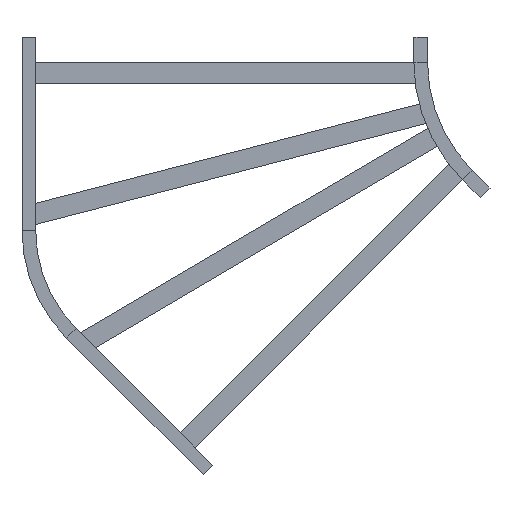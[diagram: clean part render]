
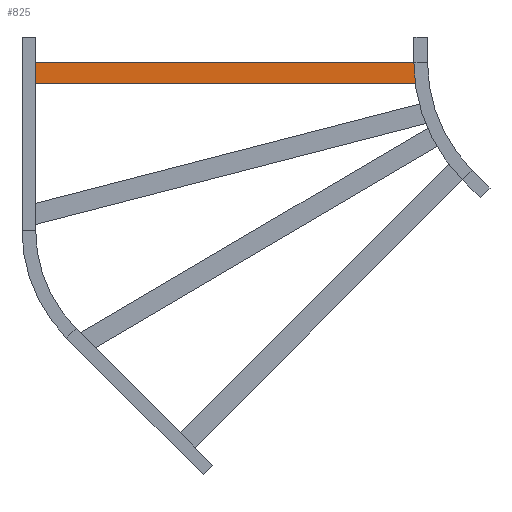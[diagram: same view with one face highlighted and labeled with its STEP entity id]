
A CAD part, front view. The second image highlights one B-rep face of the part: STEP entity #825.
In plain terms, the highlighted planar face has unit normal (0, -1, 0).
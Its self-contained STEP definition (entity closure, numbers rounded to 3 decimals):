
#15 = ORIENTED_EDGE ( 'NONE', *, *, #67, .F. ) ;
#17 = DIRECTION ( 'NONE',  ( 0., 0., 1. ) ) ;
#67 = EDGE_CURVE ( 'NONE', #511, #469, #876, .T. ) ;
#157 = EDGE_CURVE ( 'NONE', #916, #261, #316, .T. ) ;
#244 = VECTOR ( 'NONE', #1309, 1000. ) ;
#261 = VERTEX_POINT ( 'NONE', #362 ) ;
#316 = LINE ( 'NONE', #770, #244 ) ;
#362 = CARTESIAN_POINT ( 'NONE',  ( -398., 0., 20.25 ) ) ;
#363 = DIRECTION ( 'NONE',  ( 0., 0., -1. ) ) ;
#392 = EDGE_CURVE ( 'NONE', #261, #469, #689, .T. ) ;
#469 = VERTEX_POINT ( 'NONE', #1475 ) ;
#511 = VERTEX_POINT ( 'NONE', #1200 ) ;
#517 = VECTOR ( 'NONE', #1587, 1000. ) ;
#676 = ORIENTED_EDGE ( 'NONE', *, *, #157, .T. ) ;
#689 = LINE ( 'NONE', #1241, #785 ) ;
#770 = CARTESIAN_POINT ( 'NONE',  ( 398., 0., 20.25 ) ) ;
#785 = VECTOR ( 'NONE', #1798, 1000. ) ;
#825 = ADVANCED_FACE ( 'NONE', ( #1614 ), #1442, .F. ) ;
#855 = CARTESIAN_POINT ( 'NONE',  ( 398., 0., -20.25 ) ) ;
#876 = LINE ( 'NONE', #855, #517 ) ;
#916 = VERTEX_POINT ( 'NONE', #1741 ) ;
#1074 = VECTOR ( 'NONE', #363, 1000. ) ;
#1129 = EDGE_CURVE ( 'NONE', #916, #511, #1204, .T. ) ;
#1148 = CARTESIAN_POINT ( 'NONE',  ( 398., 0., 20.25 ) ) ;
#1200 = CARTESIAN_POINT ( 'NONE',  ( 398., 0., -20.25 ) ) ;
#1204 = LINE ( 'NONE', #1657, #1074 ) ;
#1241 = CARTESIAN_POINT ( 'NONE',  ( -398., 0., 20.25 ) ) ;
#1295 = DIRECTION ( 'NONE',  ( 0., 1., 0. ) ) ;
#1309 = DIRECTION ( 'NONE',  ( -1., 0., 0. ) ) ;
#1323 = EDGE_LOOP ( 'NONE', ( #1662, #15, #1392, #676 ) ) ;
#1392 = ORIENTED_EDGE ( 'NONE', *, *, #1129, .F. ) ;
#1442 = PLANE ( 'NONE',  #1814 ) ;
#1475 = CARTESIAN_POINT ( 'NONE',  ( -398., 0., -20.25 ) ) ;
#1587 = DIRECTION ( 'NONE',  ( -1., 0., 0. ) ) ;
#1614 = FACE_OUTER_BOUND ( 'NONE', #1323, .T. ) ;
#1657 = CARTESIAN_POINT ( 'NONE',  ( 398., 0., 20.25 ) ) ;
#1662 = ORIENTED_EDGE ( 'NONE', *, *, #392, .T. ) ;
#1741 = CARTESIAN_POINT ( 'NONE',  ( 398., 0., 20.25 ) ) ;
#1798 = DIRECTION ( 'NONE',  ( 0., 0., -1. ) ) ;
#1814 = AXIS2_PLACEMENT_3D ( 'NONE', #1148, #1295, #17 ) ;
